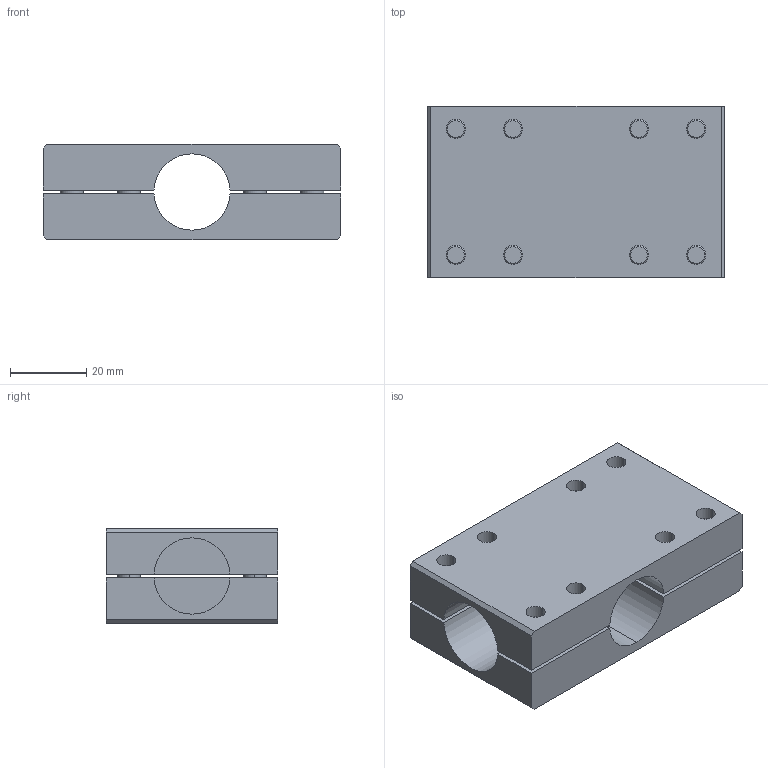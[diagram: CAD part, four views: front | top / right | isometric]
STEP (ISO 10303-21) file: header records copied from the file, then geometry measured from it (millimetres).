
FILE_DESCRIPTION (( 'STEP AP214' ), '1' );
FILE_NAME ('SMBT3-2020.STEP', '2019-11-06T05:45:59', ( '微软用户' ), ( '微软中国' ), 'SwSTEP 2.0', 'SolidWorks 2016', '' );
FILE_SCHEMA (( 'AUTOMOTIVE_DESIGN' ));
Length unit declared in the file: millimetre
Products named in the file (1): SMBT3-2020
Bounding box: 78 x 45 x 25 mm (x, y, z)
Volume: 54115.7 mm3; surface area: 31294.4 mm2
Topology: 18 solids, 18 shells, 1432 faces, 4132 edges, 2744 vertices
Faces by surface type: plane 1262, cylinder 122, cone 32, bspline 16
Entity records: 63615 total; most frequent: CARTESIAN_POINT 8645, DIRECTION 8378, ORIENTED_EDGE 8264, EDGE_CURVE 4132, AXIS2_PLACEMENT_3D 2861, VERTEX_POINT 2744, VECTOR 2656, LINE 2656
